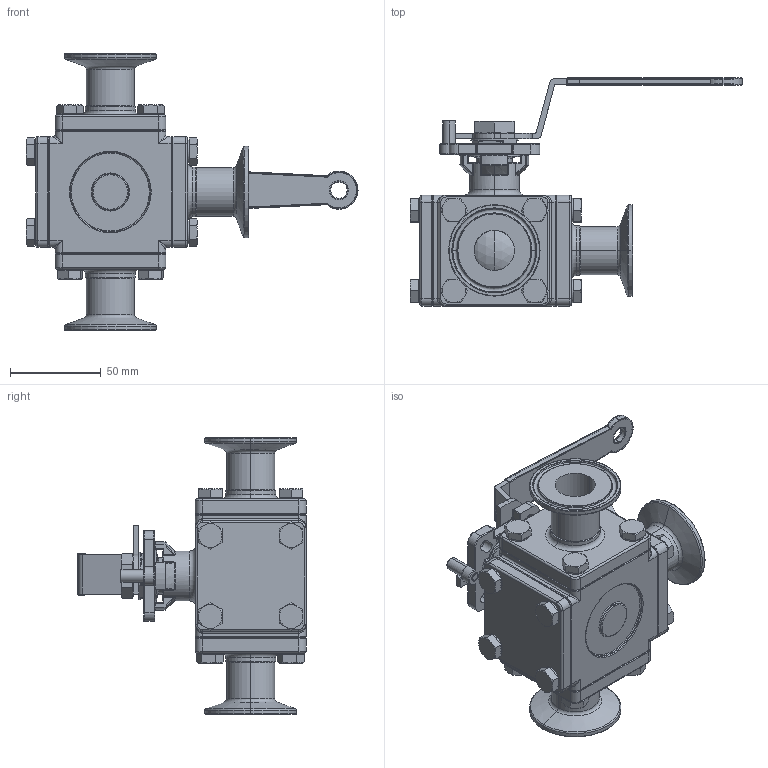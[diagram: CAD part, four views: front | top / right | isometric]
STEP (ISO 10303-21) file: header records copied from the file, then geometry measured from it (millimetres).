
FILE_DESCRIPTION (( 'STEP AP203' ), '1' );
FILE_NAME ('EG93CCC-61.0.STEP', '2019-07-02T02:25:30', ( '' ), ( '' ), 'SwSTEP 2.0', 'SolidWorks 2014', '' );
FILE_SCHEMA (( 'CONFIG_CONTROL_DESIGN' ));
Length unit declared in the file: millimetre
Products named in the file (23): 9.RING1.0; 8.STEM PACKING1.0; 19.3WAY-CAP1.0; 17.LOCKING TAB1.0; 20.SEAT BACK1.0; 22.SEAT-R-1.0; 4.SEAT1-1.0; 3.3WAY-BALL-1.0-L; 12.3WAY-NUT1.0; 10.BEVEL WASHER1.0; 16.BOLT1.0; 15.SPRING WASHER1.0; 7.O-RING0.5-1.0; 14.HANDLE1.0; 13.STEM1.0; 6.THRUST WASHER1.0; 1.3WAY-BODY1.0; 5.GASKET1.0; 2.3WAY-CAP-C-1.0; 11.STOP PIN0.5-1.0; EG93CCC-61.0; 18.THINNER NUT1.0; 22.SEAT-L-1.0
Assembly tree (57 placements, depth 2):
  EG93CCC-61.0
    1.3WAY-BODY1.0
    9.RING1.0
    11.STOP PIN0.5-1.0
    13.STEM1.0
    6.THRUST WASHER1.0
    7.O-RING0.5-1.0
    8.STEM PACKING1.0
    3.3WAY-BALL-1.0-L
    10.BEVEL WASHER1.0  x2
    17.LOCKING TAB1.0
    18.THINNER NUT1.0
    22.SEAT-L-1.0
    22.SEAT-R-1.0
    4.SEAT1-1.0  x2
    20.SEAT BACK1.0
    5.GASKET1.0  x2
    19.3WAY-CAP1.0
    2.3WAY-CAP-C-1.0  x3
    15.SPRING WASHER1.0  x16
    16.BOLT1.0  x16
    14.HANDLE1.0
    12.3WAY-NUT1.0
Bounding box: 183 x 125.69 x 152.4 mm (x, y, z)
Volume: 444355.1 mm3; surface area: 189147.1 mm2
Topology: 58 solids, 58 shells, 1559 faces, 3496 edges, 2052 vertices
Faces by surface type: cylinder 566, plane 400, cone 252, torus 234, sphere 58, bspline 49
Entity records: 34815 total; most frequent: CARTESIAN_POINT 8182, DIRECTION 5372, ORIENTED_EDGE 4586, EDGE_CURVE 2293, AXIS2_PLACEMENT_3D 2282, VERTEX_POINT 1354, CIRCLE 1261, EDGE_LOOP 1117
